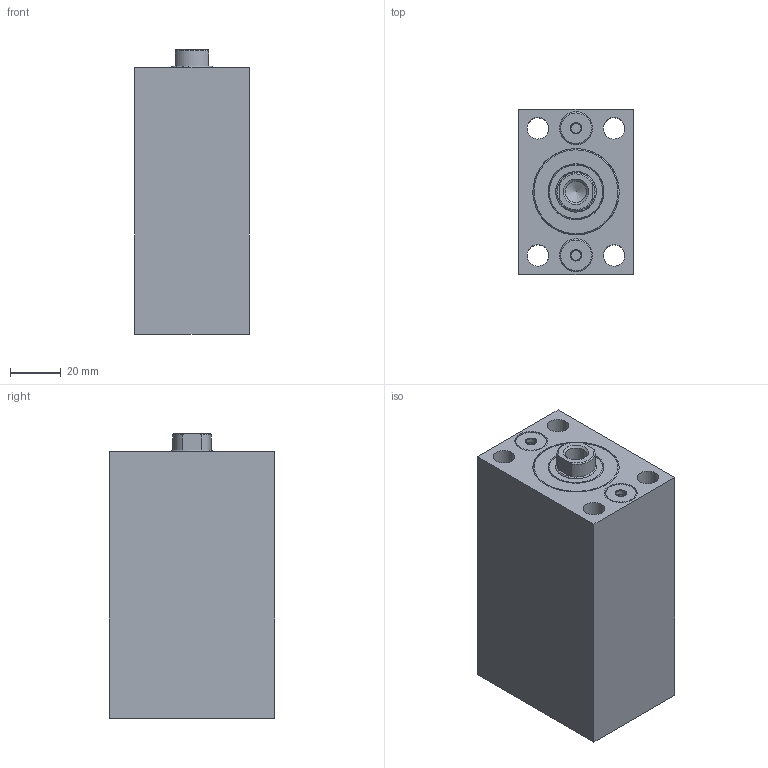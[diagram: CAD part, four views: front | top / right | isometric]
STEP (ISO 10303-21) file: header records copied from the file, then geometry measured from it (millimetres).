
FILE_DESCRIPTION( ( 'STEP AP203' ), '1' );
FILE_NAME( 'C:/Users/SAYKO.ltd/Desktop/SBZ100/07/SBZ100-25/SBZ100.25__FORM_07_STROKE_40__H2_44_POS_0_.stp', ' ', ( ' ' ), ( ' ' ), 'PSStep 15.0.47', 'PARTsolutions', ' ' );
FILE_SCHEMA( ( 'CONFIG_CONTROL_DESIGN' ) );
Length unit declared in the file: millimetre
Products named in the file (5): SBZ100.25  FORM=07 STROKE=40 (H2=44 POS=0); HI_SBZ10025  FORM=07 STROKE=40 H2=44 -C; HI_SBZ10025  FORM=07 STROKE=40-R; HI_SBZ100.25-C; HI_SBZ100.25-S
Assembly tree (4 placements, depth 2):
  SBZ100.25  FORM=07 STROKE=40 (H2=44 POS=0)
    HI_SBZ10025  FORM=07 STROKE=40 H2=44 -C
    HI_SBZ10025  FORM=07 STROKE=40-R
    HI_SBZ100.25-C
    HI_SBZ100.25-S
Bounding box: 45 x 65 x 112 mm (x, y, z)
Volume: 267262.3 mm3; surface area: 63589.6 mm2
Topology: 4 solids, 4 shells, 74 faces, 136 edges, 87 vertices
Faces by surface type: plane 33, cylinder 28, cone 10, torus 3
Full cylindrical faces by diameter (mm): 4 x4, 8.376 x1, 8.5 x4, 13 x2, 13.6 x4, 16 x4, 22 x1, 24 x2, 25 x2, 34 x2
Entity records: 3855 total; most frequent: CARTESIAN_POINT 2525, ORIENTED_EDGE 188, DIRECTION 178, EDGE_LOOP 140, FACE_OUTER_BOUND 101, EDGE_CURVE 94, VERTEX_POINT 83, AXIS2_PLACEMENT_3D 81
